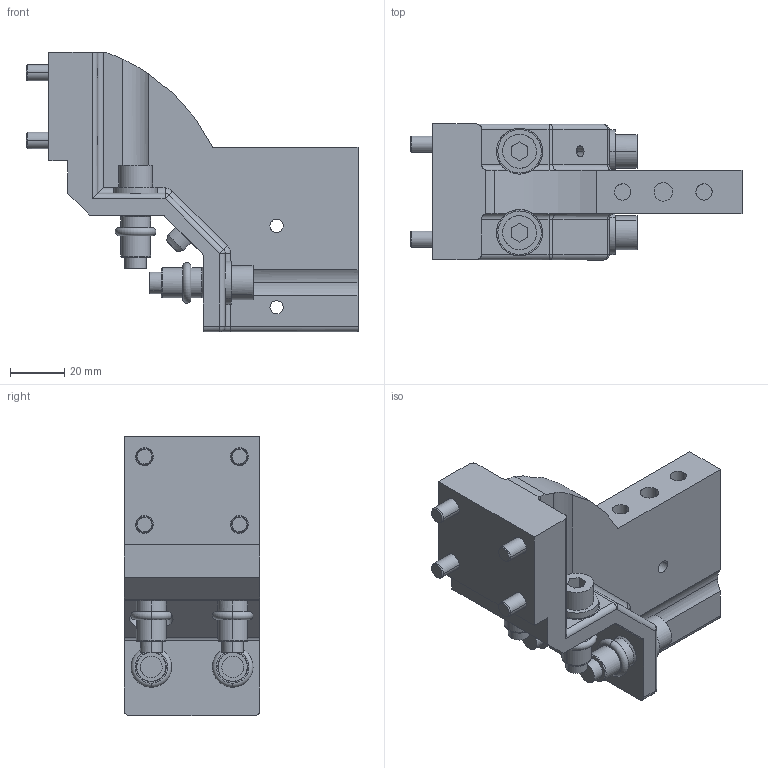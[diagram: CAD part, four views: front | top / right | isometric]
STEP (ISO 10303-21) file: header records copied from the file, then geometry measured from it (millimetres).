
FILE_DESCRIPTION(('CATIA V5 STEP Exchange','CAx-IF Rec.Pracs.--- Model Styling and Organization---1.2---2011-12-15'),'2;1');
FILE_NAME('\\SVARKONVERT2\Konvert\CatiaV5-Step_out\EGT273_1698082_ANBINDUNG_SPANNER_40_SW50_WAAGR.stp','2015-10-29T15:08:15+00:00',('none'),('none'),'CATIA Version 5-6 Release 2014 SP1 HF51','CATIA V5 STEP AP214','none');
FILE_SCHEMA(('AUTOMOTIVE_DESIGN { 1 0 10303 214 1 1 1 1 }'));
Length unit declared in the file: millimetre
Products named in the file (1): EGT273_1698082_ANBINDUNG_SPANNER_40_SW50_WAAGR
Bounding box: 122.4 x 50 x 103 mm (x, y, z)
Volume: 164113.1 mm3; surface area: 47271.4 mm2
Topology: 1 solids, 5 shells, 372 faces, 992 edges, 679 vertices
Faces by surface type: cylinder 182, plane 136, cone 34, torus 14, sphere 6
Entity records: 13952 total; most frequent: CARTESIAN_POINT 6268, ORIENTED_EDGE 1976, EDGE_CURVE 988, B_SPLINE_CURVE_WITH_KNOTS 870, DIRECTION 744, VERTEX_POINT 679, EDGE_LOOP 441, AXIS2_PLACEMENT_3D 373
